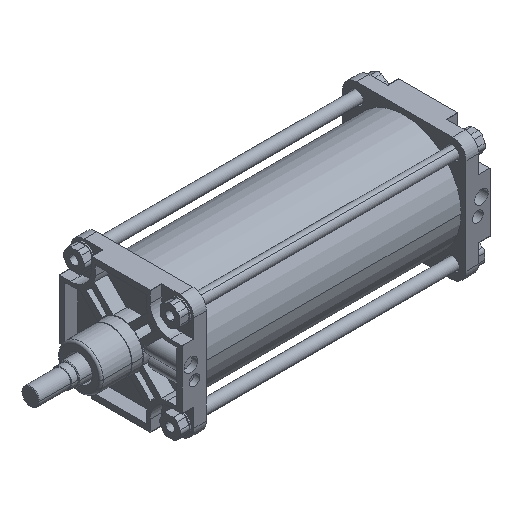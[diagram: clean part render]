
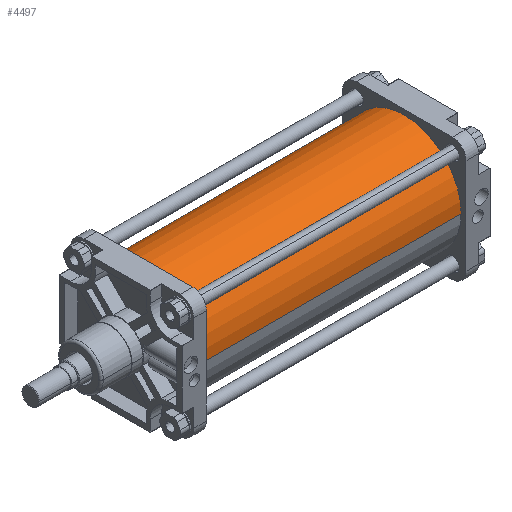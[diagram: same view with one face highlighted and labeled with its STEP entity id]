
A CAD part, isometric view. The second image highlights one B-rep face of the part: STEP entity #4497.
In plain terms, the highlighted cylindrical face has radius 130 mm (diameter 260 mm), a partial arc.
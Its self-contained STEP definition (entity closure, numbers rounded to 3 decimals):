
#2427=CARTESIAN_POINT('Vertex',(-50.,-130.,0.)) ;
#2429=CARTESIAN_POINT('Vertex',(-50.,130.,0.)) ;
#2432=CARTESIAN_POINT('Axis2P3D Location',(-50.,0.,0.)) ;
#4467=CARTESIAN_POINT('Axis2P3D Location',(247.,0.,0.)) ;
#4472=CARTESIAN_POINT('Line Origine',(247.,130.,0.)) ;
#4476=CARTESIAN_POINT('Vertex',(544.,130.,0.)) ;
#4479=CARTESIAN_POINT('Line Origine',(247.,-130.,0.)) ;
#4483=CARTESIAN_POINT('Vertex',(544.,-130.,0.)) ;
#4486=CARTESIAN_POINT('Axis2P3D Location',(544.,0.,0.)) ;
#2433=DIRECTION('Axis2P3D Direction',(-1.,0.,0.)) ;
#4468=DIRECTION('Axis2P3D Direction',(1.,-0.,0.)) ;
#4469=DIRECTION('Axis2P3D XDirection',(0.,1.,0.)) ;
#4473=DIRECTION('Vector Direction',(1.,0.,0.)) ;
#4480=DIRECTION('Vector Direction',(1.,0.,0.)) ;
#4487=DIRECTION('Axis2P3D Direction',(1.,-0.,0.)) ;
#2434=AXIS2_PLACEMENT_3D('Circle Axis2P3D',#2432,#2433,$) ;
#4470=AXIS2_PLACEMENT_3D('Cylinder Axis2P3D',#4467,#4468,#4469) ;
#4488=AXIS2_PLACEMENT_3D('Circle Axis2P3D',#4486,#4487,$) ;
#4492=ORIENTED_EDGE('',*,*,#4478,.F.) ;
#4493=ORIENTED_EDGE('',*,*,#2436,.T.) ;
#4494=ORIENTED_EDGE('',*,*,#4485,.T.) ;
#4495=ORIENTED_EDGE('',*,*,#4490,.F.) ;
#4474=VECTOR('Line Direction',#4473,1.) ;
#4481=VECTOR('Line Direction',#4480,1.) ;
#4497=ADVANCED_FACE('PartBody',(#4496),#4471,.T.) ;
#2435=CIRCLE('generated circle',#2434,130.) ;
#4489=CIRCLE('generated circle',#4488,130.) ;
#4471=CYLINDRICAL_SURFACE('generated cylinder',#4470,130.) ;
#2436=EDGE_CURVE('',#2430,#2428,#2435,.F.) ;
#4478=EDGE_CURVE('',#2430,#4477,#4475,.T.) ;
#4485=EDGE_CURVE('',#2428,#4484,#4482,.T.) ;
#4490=EDGE_CURVE('',#4477,#4484,#4489,.T.) ;
#4491=EDGE_LOOP('',(#4492,#4493,#4494,#4495)) ;
#4496=FACE_OUTER_BOUND('',#4491,.T.) ;
#4475=LINE('Line',#4472,#4474) ;
#4482=LINE('Line',#4479,#4481) ;
#2428=VERTEX_POINT('',#2427) ;
#2430=VERTEX_POINT('',#2429) ;
#4477=VERTEX_POINT('',#4476) ;
#4484=VERTEX_POINT('',#4483) ;
